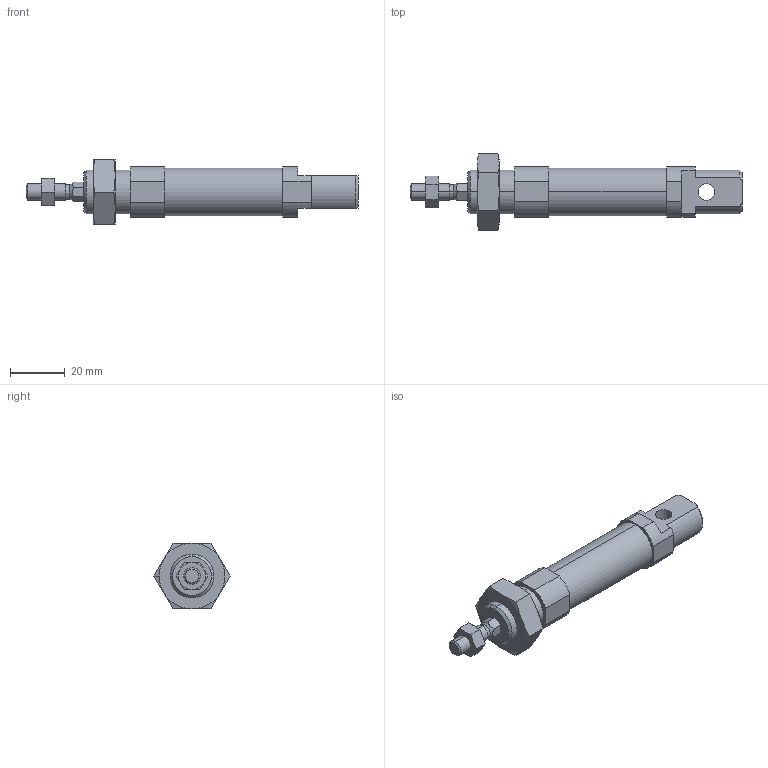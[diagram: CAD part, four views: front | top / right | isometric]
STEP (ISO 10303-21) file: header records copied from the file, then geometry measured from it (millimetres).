
FILE_DESCRIPTION (( 'STEP AP203' ), '1' );
FILE_NAME ('CSMK16-10.STEP', '2020-04-02T10:43:38', ( '' ), ( '' ), 'SwSTEP 2.0', 'SolidWorks 2019', '' );
FILE_SCHEMA (( 'CONFIG_CONTROL_DESIGN' ));
Length unit declared in the file: millimetre
Products named in the file (1): CSMK16-10
Bounding box: 121 x 27.71 x 24 mm (x, y, z)
Volume: 24261 mm3; surface area: 11982.2 mm2
Topology: 4 solids, 4 shells, 135 faces, 310 edges, 189 vertices
Faces by surface type: plane 53, cone 50, cylinder 32
Entity records: 4287 total; most frequent: CARTESIAN_POINT 1185, DIRECTION 636, ORIENTED_EDGE 616, EDGE_CURVE 308, AXIS2_PLACEMENT_3D 250, VERTEX_POINT 189, EDGE_LOOP 151, LINE 136
